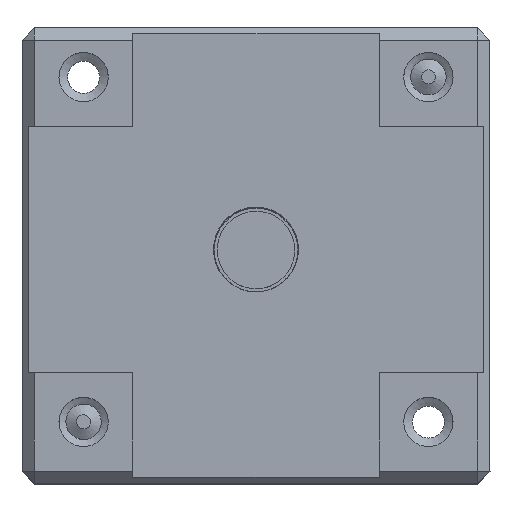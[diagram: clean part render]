
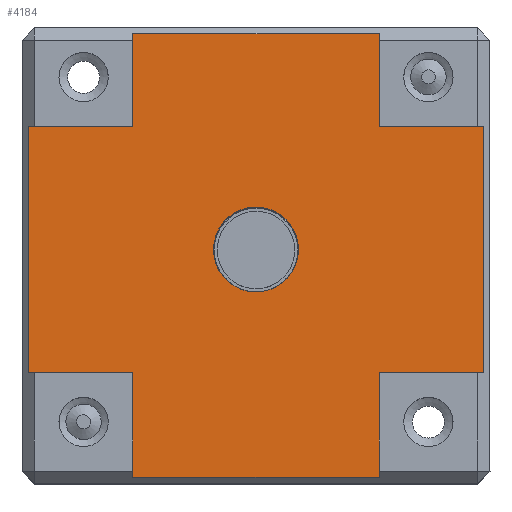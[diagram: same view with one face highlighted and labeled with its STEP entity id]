
A CAD part, top view. The second image highlights one B-rep face of the part: STEP entity #4184.
In plain terms, the highlighted planar face has unit normal (0, 0, 1).
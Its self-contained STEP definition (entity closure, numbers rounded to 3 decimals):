
#1278=PLANE('',#9895);
#1994=LINE('',#12544,#2910);
#2000=LINE('',#12555,#2916);
#2006=LINE('',#12566,#2922);
#2011=LINE('',#12575,#2927);
#2049=LINE('',#12675,#2965);
#2051=LINE('',#12679,#2967);
#2052=LINE('',#12681,#2968);
#2054=LINE('',#12685,#2970);
#2055=LINE('',#12687,#2971);
#2057=LINE('',#12691,#2973);
#2058=LINE('',#12693,#2974);
#2060=LINE('',#12697,#2976);
#2910=VECTOR('',#10403,1.);
#2916=VECTOR('',#10411,1.);
#2922=VECTOR('',#10419,1.);
#2927=VECTOR('',#10426,1.);
#2965=VECTOR('',#10532,1.);
#2967=VECTOR('',#10536,1.);
#2968=VECTOR('',#10539,1.);
#2970=VECTOR('',#10543,1.);
#2971=VECTOR('',#10546,1.);
#2973=VECTOR('',#10550,1.);
#2974=VECTOR('',#10553,1.);
#2976=VECTOR('',#10557,1.);
#4184=ADVANCED_FACE('',(#4673,#4674),#1278,.F.);
#4673=FACE_BOUND('',#4907,.T.);
#4674=FACE_BOUND('',#4908,.T.);
#4907=EDGE_LOOP('',(#5638));
#4908=EDGE_LOOP('',(#5639,#5640,#5641,#5642,#5643,#5644,#5645,#5646,#5647,
#5648,#5649,#5650));
#5638=ORIENTED_EDGE('',*,*,#8586,.T.);
#5639=ORIENTED_EDGE('',*,*,#8608,.T.);
#5640=ORIENTED_EDGE('',*,*,#8683,.F.);
#5641=ORIENTED_EDGE('',*,*,#8681,.F.);
#5642=ORIENTED_EDGE('',*,*,#8614,.T.);
#5643=ORIENTED_EDGE('',*,*,#8680,.F.);
#5644=ORIENTED_EDGE('',*,*,#8678,.F.);
#5645=ORIENTED_EDGE('',*,*,#8620,.T.);
#5646=ORIENTED_EDGE('',*,*,#8677,.F.);
#5647=ORIENTED_EDGE('',*,*,#8675,.F.);
#5648=ORIENTED_EDGE('',*,*,#8625,.T.);
#5649=ORIENTED_EDGE('',*,*,#8686,.F.);
#5650=ORIENTED_EDGE('',*,*,#8684,.F.);
#7787=VERTEX_POINT('',#12496);
#7808=VERTEX_POINT('',#12543);
#7809=VERTEX_POINT('',#12545);
#7812=VERTEX_POINT('',#12554);
#7813=VERTEX_POINT('',#12556);
#7816=VERTEX_POINT('',#12565);
#7817=VERTEX_POINT('',#12567);
#7820=VERTEX_POINT('',#12576);
#7821=VERTEX_POINT('',#12577);
#7848=VERTEX_POINT('',#12676);
#7849=VERTEX_POINT('',#12682);
#7850=VERTEX_POINT('',#12688);
#7851=VERTEX_POINT('',#12694);
#8586=EDGE_CURVE('',#7787,#7787,#9738,.T.);
#8608=EDGE_CURVE('',#7809,#7808,#1994,.T.);
#8614=EDGE_CURVE('',#7813,#7812,#2000,.T.);
#8620=EDGE_CURVE('',#7817,#7816,#2006,.T.);
#8625=EDGE_CURVE('',#7820,#7821,#2011,.T.);
#8675=EDGE_CURVE('',#7820,#7848,#2049,.T.);
#8677=EDGE_CURVE('',#7848,#7816,#2051,.T.);
#8678=EDGE_CURVE('',#7817,#7849,#2052,.T.);
#8680=EDGE_CURVE('',#7849,#7812,#2054,.T.);
#8681=EDGE_CURVE('',#7813,#7850,#2055,.T.);
#8683=EDGE_CURVE('',#7850,#7808,#2057,.T.);
#8684=EDGE_CURVE('',#7809,#7851,#2058,.T.);
#8686=EDGE_CURVE('',#7851,#7821,#2060,.T.);
#9738=CIRCLE('',#9840,3.45);
#9840=AXIS2_PLACEMENT_3D('',#12495,#10366,#10367);
#9895=AXIS2_PLACEMENT_3D('',#12699,#10560,#10561);
#10366=DIRECTION('',(0.,0.,-1.));
#10367=DIRECTION('',(-1.,0.,0.));
#10403=DIRECTION('',(-1.,0.,0.));
#10411=DIRECTION('',(0.,-1.,0.));
#10419=DIRECTION('',(1.,0.,0.));
#10426=DIRECTION('',(0.,1.,0.));
#10532=DIRECTION('',(-1.,0.,0.));
#10536=DIRECTION('',(0.,-1.,0.));
#10539=DIRECTION('',(0.,1.,0.));
#10543=DIRECTION('',(-1.,0.,0.));
#10546=DIRECTION('',(1.,0.,0.));
#10550=DIRECTION('',(0.,1.,0.));
#10553=DIRECTION('',(0.,-1.,0.));
#10557=DIRECTION('',(1.,0.,0.));
#10560=DIRECTION('',(0.,0.,-1.));
#10561=DIRECTION('',(1.,0.,0.));
#12495=CARTESIAN_POINT('',(-193.235,-562.891,-234.507));
#12496=CARTESIAN_POINT('',(-196.685,-562.891,-234.507));
#12543=CARTESIAN_POINT('',(-203.235,-545.391,-234.507));
#12544=CARTESIAN_POINT('',(-193.235,-545.391,-234.507));
#12545=CARTESIAN_POINT('',(-183.235,-545.391,-234.507));
#12554=CARTESIAN_POINT('',(-211.735,-572.891,-234.507));
#12555=CARTESIAN_POINT('',(-211.735,-563.391,-234.507));
#12556=CARTESIAN_POINT('',(-211.735,-552.891,-234.507));
#12565=CARTESIAN_POINT('',(-183.235,-581.391,-234.507));
#12566=CARTESIAN_POINT('',(-193.235,-581.391,-234.507));
#12567=CARTESIAN_POINT('',(-203.235,-581.391,-234.507));
#12575=CARTESIAN_POINT('',(-174.735,-563.391,-234.507));
#12576=CARTESIAN_POINT('',(-174.735,-572.891,-234.507));
#12577=CARTESIAN_POINT('',(-174.735,-552.891,-234.507));
#12675=CARTESIAN_POINT('',(-174.235,-572.891,-234.507));
#12676=CARTESIAN_POINT('',(-183.235,-572.891,-234.507));
#12679=CARTESIAN_POINT('',(-183.235,-572.891,-234.507));
#12681=CARTESIAN_POINT('',(-203.235,-581.891,-234.507));
#12682=CARTESIAN_POINT('',(-203.235,-572.891,-234.507));
#12685=CARTESIAN_POINT('',(-203.235,-572.891,-234.507));
#12687=CARTESIAN_POINT('',(-212.235,-552.891,-234.507));
#12688=CARTESIAN_POINT('',(-203.235,-552.891,-234.507));
#12691=CARTESIAN_POINT('',(-203.235,-552.891,-234.507));
#12693=CARTESIAN_POINT('',(-183.235,-544.891,-234.507));
#12694=CARTESIAN_POINT('',(-183.235,-552.891,-234.507));
#12697=CARTESIAN_POINT('',(-183.235,-552.891,-234.507));
#12699=CARTESIAN_POINT('',(-174.235,-572.891,-234.507));
